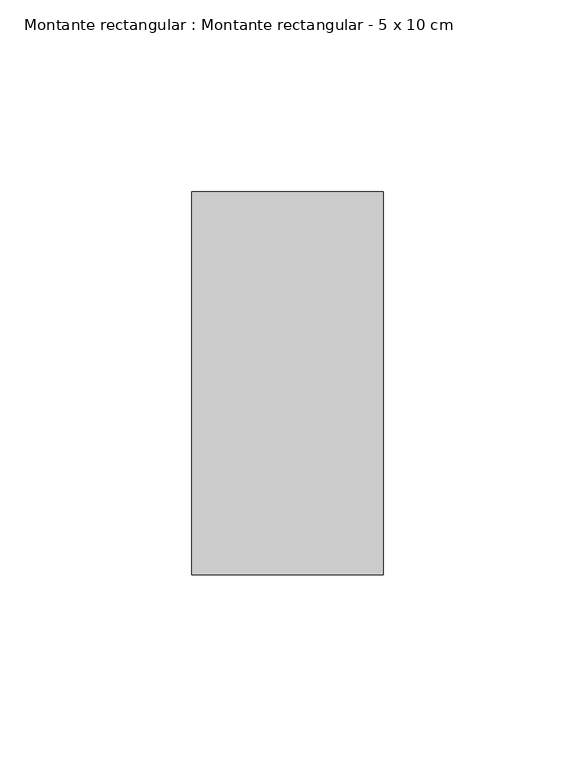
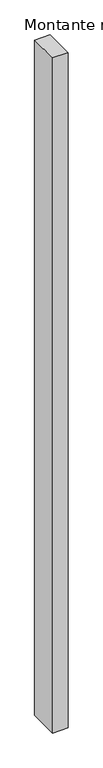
"""IFC4 building model written with IfcOpenShell, lengths in millimetres: member geometry, Montante rectangular : Montante rectangular - 5 x 10 cm."""

from ifc_helpers import new_model, si_unit, frame, origin, place, context, project, spatial, polyline, outline, extrude, source, transform, mapped, element, save


def montante_rectangular_montante_rectangular_5_x_10_cm_416d1d70(model_context):
    return source(origin(), model_context, "Body", "SweptSolid", [
        extrude(outline(polyline([(25.0, 50.0), (25.0, -50.0), (-25.0, -50.0), (-25.0, 50.0), (25.0, 50.0)])), frame((0.0, 0.0, -2290.0), z_axis=(0.0, 0.0, 1.0), x_axis=(1.0, 0.0, 0.0)), (0.0, 0.0, 1.0), 2290.0),
    ])


if __name__ == "__main__":
    model = new_model("IFC4")
    model_context = context("Model", 3, world=origin())
    ifc_project = project(units=[si_unit("LENGTHUNIT", "METRE", prefix="MILLI")], contexts=[model_context])
    site = spatial("IfcSite", under=ifc_project)
    building = spatial("IfcBuilding", under=site)
    placement = place(None, origin())
    montante_rectangular_montante_rectangular_5_x_10_cm_shape = montante_rectangular_montante_rectangular_5_x_10_cm_416d1d70(model_context)
    element("IfcMember", 1, ObjectType="Montante rectangular : Montante rectangular - 5 x 10 cm", at=placement, inside=building, context=model_context, shape_type="MappedRepresentation", body=[
        mapped(montante_rectangular_montante_rectangular_5_x_10_cm_shape, transform((0.0, 0.0, 0.0), x_axis=(1.0, 0.0, 0.0), y_axis=(0.0, 1.0, 0.0), z_axis=(0.0, 0.0, 1.0))),
    ])
    save(model, "model.ifc")
